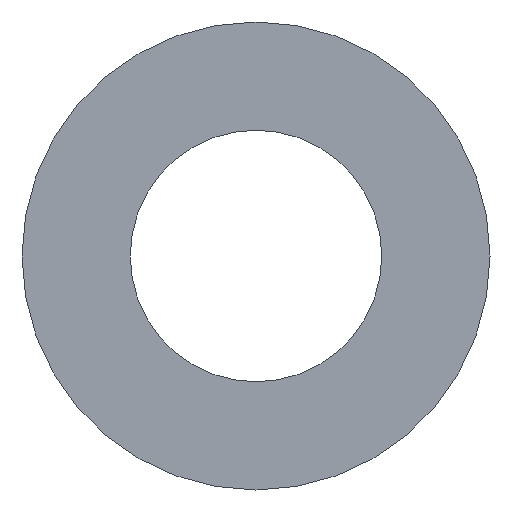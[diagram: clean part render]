
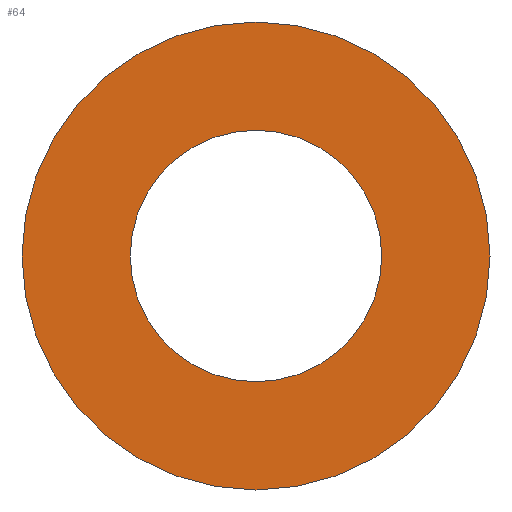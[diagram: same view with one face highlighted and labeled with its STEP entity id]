
A CAD part, left-side view. The second image highlights one B-rep face of the part: STEP entity #64.
In plain terms, the highlighted planar face has unit normal (-1, 0, 0).
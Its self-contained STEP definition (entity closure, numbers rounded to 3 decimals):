
#16=FACE_BOUND('',#28,.T.);
#18=PLANE('',#95);
#22=FACE_OUTER_BOUND('',#27,.T.);
#27=EDGE_LOOP('',(#57));
#28=EDGE_LOOP('',(#58));
#33=CIRCLE('',#89,2.15);
#36=CIRCLE('',#93,4.);
#37=VERTEX_POINT('',#118);
#40=VERTEX_POINT('',#126);
#41=EDGE_CURVE('',#37,#37,#33,.T.);
#46=EDGE_CURVE('',#40,#40,#36,.T.);
#57=ORIENTED_EDGE('',*,*,#46,.T.);
#58=ORIENTED_EDGE('',*,*,#41,.T.);
#64=ADVANCED_FACE('',(#22,#16),#18,.T.);
#89=AXIS2_PLACEMENT_3D('',#119,#100,#101);
#93=AXIS2_PLACEMENT_3D('',#128,#110,#111);
#95=AXIS2_PLACEMENT_3D('',#130,#114,#115);
#100=DIRECTION('center_axis',(1.,0.,0.));
#101=DIRECTION('ref_axis',(0.,-1.,0.));
#110=DIRECTION('center_axis',(-1.,0.,0.));
#111=DIRECTION('ref_axis',(0.,-1.,0.));
#114=DIRECTION('center_axis',(-1.,0.,0.));
#115=DIRECTION('ref_axis',(0.,0.,1.));
#118=CARTESIAN_POINT('',(0.,2.15,0.));
#119=CARTESIAN_POINT('Origin',(0.,0.,0.));
#126=CARTESIAN_POINT('',(0.,4.,0.));
#128=CARTESIAN_POINT('Origin',(0.,0.,0.));
#130=CARTESIAN_POINT('Origin',(0.,0.,0.));
